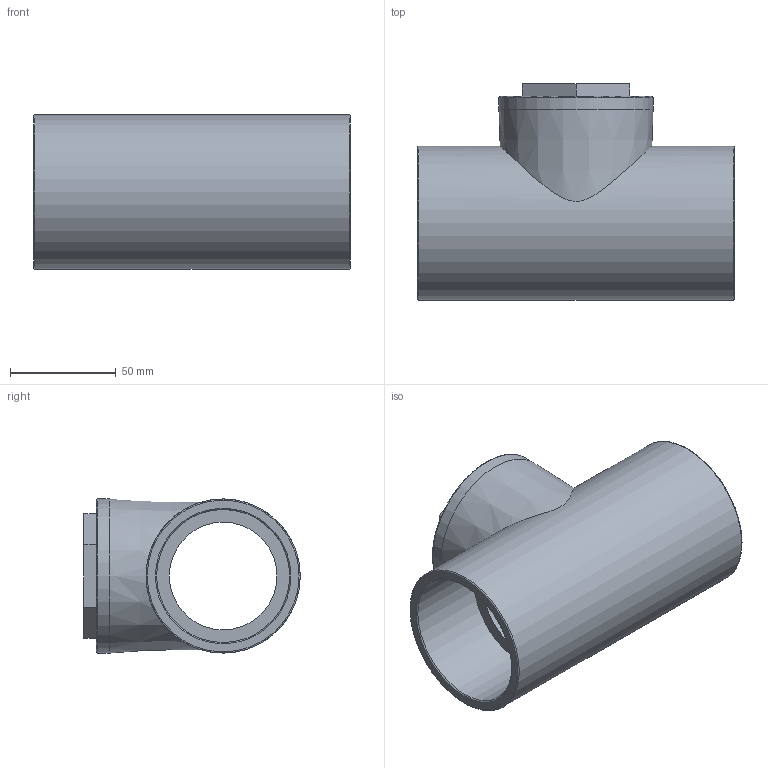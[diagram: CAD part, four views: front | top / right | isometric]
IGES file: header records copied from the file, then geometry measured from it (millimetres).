
Global section: file name: 050408063.ipt; native system: Autodesk Inventor 2015; preprocessor: unknown; author: KIM; date: 20171207.164552; units: millimetre
Bounding box: 150 x 102.5 x 73 mm (x, y, z)
Volume: 370981.7 mm3; surface area: 73691.7 mm2
Topology: 1 solids, 1 shells, 23 faces, 64 edges, 46 vertices
Faces by surface type: plane 12, revolution 8, cylinder 2, cone 1
Full cylindrical faces by diameter (mm): 73 x2
